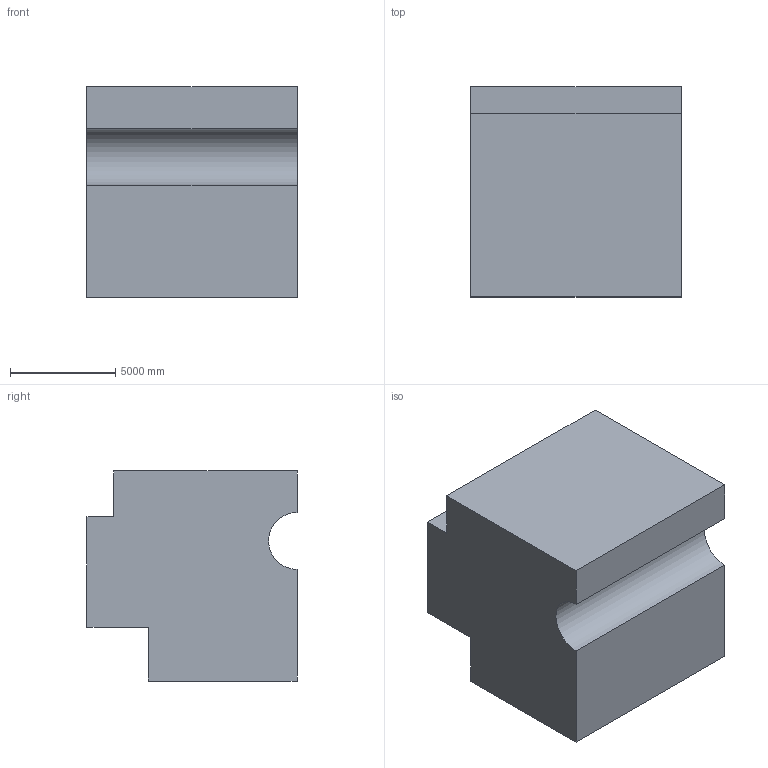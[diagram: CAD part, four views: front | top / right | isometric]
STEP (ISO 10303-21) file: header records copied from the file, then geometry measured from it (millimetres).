
FILE_DESCRIPTION (( 'STEP AP203' ), '1' );
FILE_NAME ('677.STEP', '2022-07-29T12:28:03', ( 'user' ), ( '' ), 'SwSTEP 2.0', 'SolidWorks 2021', '' );
FILE_SCHEMA (( 'CONFIG_CONTROL_DESIGN' ));
Length unit declared in the file: centimetre
Products named in the file (1): 677
Bounding box: 10000 x 10000 x 10000 mm (x, y, z)
Volume: 820689809162.2 mm3; surface area: 667244824.7 mm2
Topology: 1 solids, 1 shells, 38 faces, 102 edges, 68 vertices
Faces by surface type: plane 33, cylinder 5
Entity records: 1255 total; most frequent: CARTESIAN_POINT 209, ORIENTED_EDGE 204, DIRECTION 192, EDGE_CURVE 102, VECTOR 90, LINE 90, VERTEX_POINT 68, AXIS2_PLACEMENT_3D 51
